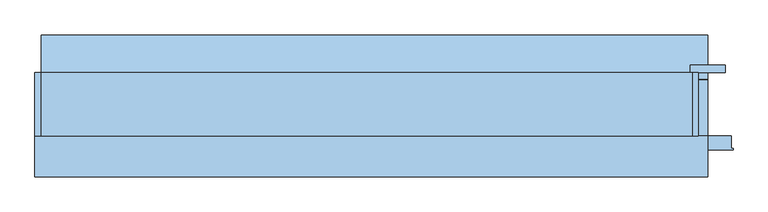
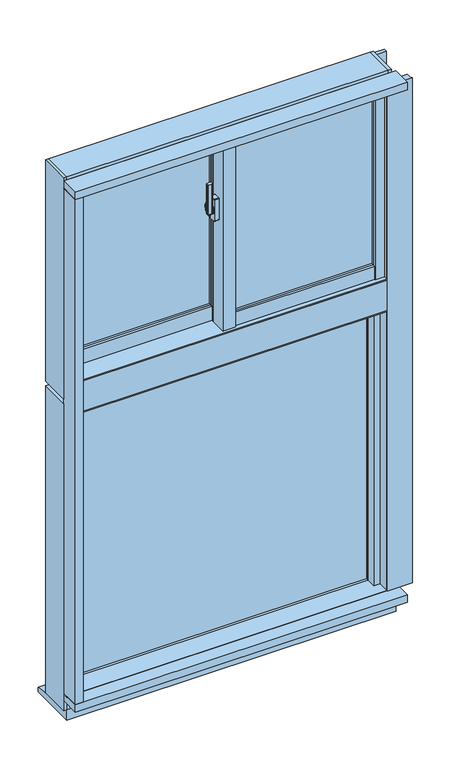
"""IFC4 building model written with IfcOpenShell, lengths in millimetres: window geometry, FNSⅡ100R_非防火_RC枠_段窓_分解無目 : 引違/引違."""

from ifc_helpers import new_model, si_unit, point, frame, frame_2d, origin, place, context, project, spatial, polyline, circle_curve, trimmed, segment, composite_curve, outline, extrude, faceted_brep, source, transform, mapped, element, save
from ifc_brep_helpers import plane_surface, cylinder_surface, revolved_surface, advanced_brep


def window_d3e49d5a(model_context):
    return source(origin(), model_context, "Body", "SolidModel", [
        extrude(outline(composite_curve([segment(polyline([(-39.0, -20.4), (-39.0, -28.6)]), True, "CONTINUOUS"), segment(trimmed(circle_curve(frame_2d((-41.0, -28.6)), 2.0), [point((-39.0, -28.6))], [point((-41.3606557, -30.5672131))], False, "CARTESIAN"), True, "CONTINUOUS"), segment(polyline([(-41.3606557, -30.5672131), (-52.3606557, -28.5505464)]), True, "CONTINUOUS"), segment(trimmed(circle_curve(frame_2d((-52.0, -26.5833333)), 2.0), [point((-52.3606557, -28.5505464))], [point((-54.0, -26.5833333))], False, "CARTESIAN"), True, "CONTINUOUS"), segment(polyline([(-54.0, -26.5833333), (-54.0, -22.4166667)]), True, "CONTINUOUS"), segment(trimmed(circle_curve(frame_2d((-52.0, -22.4166667)), 2.0), [point((-54.0, -22.4166667))], [point((-52.3606557, -20.4494536))], False, "CARTESIAN"), True, "CONTINUOUS"), segment(polyline([(-52.3606557, -20.4494536), (-41.3606557, -18.4327869)]), True, "CONTINUOUS"), segment(trimmed(circle_curve(frame_2d((-41.0, -20.4)), 2.0), [point((-41.3606557, -18.4327869))], [point((-39.0, -20.4))], False, "CARTESIAN"), True, "CONTINUOUS")], self_intersect=False)), frame((0.0, 0.0, 2345.0), z_axis=(0.0, 0.0, 1.0), x_axis=(1.0, 0.0, 0.0)), (0.0, 0.0, 1.0), 100.0),
        advanced_brep(
        [(-37.5, -16.1765715, 2376.7333311), (-45.5, -16.1765715, 2376.7333311), (-45.5, -16.5648001, 2375.2844424), (-39.0, -16.5648001, 2375.2844424), (-39.0, -18.3765334, 2368.5229616), (-37.5, -18.3765334, 2368.5229616), (-39.0, -18.3533883, 2334.3190372), (-45.5, -18.3533883, 2334.3190372), (-45.5, -18.092916, 2332.8418256), (-37.5, -18.092916, 2332.8418256), (-37.5, -19.5689255, 2341.2126915), (-39.0, -19.5689255, 2341.2126915)],
        [
            (0, 1),
            (1, 2),
            (2, 3),
            (3, 4),
            (4, 5),
            (5, 0),
            (6, 7),
            (7, 8),
            (8, 9),
            (9, 10),
            (10, 11),
            (11, 6),
            (0, 9, circle_curve(frame((-37.5, -22.0, 2355.0), z_axis=(-1.0, 0.0, 0.0), x_axis=(0.0, 0.25881904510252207, 0.965925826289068)), 22.5)),
            (8, 1, circle_curve(frame((-45.5, -22.0, 2355.0), z_axis=(1.0, 0.0, 0.0), x_axis=(0.0, 0.25881904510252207, 0.965925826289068)), 22.5)),
            (7, 2, circle_curve(frame((-45.5, -22.0, 2355.0), z_axis=(1.0, 0.0, 0.0), x_axis=(0.0, 0.25881904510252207, 0.965925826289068)), 21.0)),
            (6, 3, circle_curve(frame((-39.0, -22.0, 2355.0), z_axis=(1.0, 0.0, 0.0), x_axis=(0.0, 0.25881904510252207, 0.965925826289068)), 21.0)),
            (11, 4, circle_curve(frame((-39.0, -22.0, 2355.0), z_axis=(-1.0, 0.0, 0.0), x_axis=(0.0, -1.0, 0.0)), 14.0)),
            (5, 10, circle_curve(frame((-37.5, -22.0, 2355.0), z_axis=(1.0, 0.0, 0.0), x_axis=(0.0, -1.0, 0.0)), 14.0)),
        ],
        [
            plane_surface(frame((-43.5470497, -22.0, 2355.0), z_axis=(0.0, -0.965925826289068, 0.25881904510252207), x_axis=(0.0, 0.25881904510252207, 0.965925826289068))),
            plane_surface(frame((-43.5470497, -22.0, 2355.0), z_axis=(0.0, -0.9848077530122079, -0.17364817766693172), x_axis=(0.0, 0.17364817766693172, -0.9848077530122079))),
            cylinder_surface(frame((-43.5470497, -22.0, 2355.0), z_axis=(-1.0, 0.0, 0.0), x_axis=(0.0, 0.25881904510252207, 0.965925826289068)), 22.5),
            plane_surface(frame((-45.5, -22.0, 2355.0), z_axis=(-1.0, 0.0, 0.0), x_axis=(0.0, 0.25881904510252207, 0.965925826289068))),
            revolved_surface(polyline([(-45.5, -16.564800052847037, 2375.2844423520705), (-39.0, -16.564800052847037, 2375.2844423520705)]), (-43.5470497, -22.0, 2355.0), (-1.0, 0.0, 0.0)),
            plane_surface(frame((-39.0, -22.0, 2355.0), z_axis=(-1.0, 0.0, 0.0), x_axis=(0.0, 0.25881904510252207, 0.965925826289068))),
            plane_surface(frame((-37.5, -22.0, 2355.0), z_axis=(1.0, 0.0, 0.0), x_axis=(0.0, 0.25881904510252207, 0.965925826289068))),
            cylinder_surface(frame((-37.5, -22.0, 2355.0), z_axis=(-1.0, 0.0, 0.0), x_axis=(0.0, -1.0, 0.0)), 14.0),
        ],
        [
            (0, [[1, 2, 3, 4, 5, 6]]),
            (1, [[7, 8, 9, 10, 11, 12]]),
            (2, [[-1, 13, -9, 14]]),
            (3, [[-2, -14, -8, 15]]),
            (4, [[-3, -15, -7, 16]]),
            (5, [[-16, -12, 17, -4]]),
            (6, [[-13, -6, 18, -10]]),
            (7, [[-17, -11, -18, -5]]),
        ],
    ),
        extrude(outline(composite_curve([segment(trimmed(circle_curve(frame_2d((-22.0, 2355.0)), 11.5), [point((-10.5, 2355.0))], [point((-33.5, 2355.0))], False, "CARTESIAN"), True, "CONTINUOUS"), segment(trimmed(circle_curve(frame_2d((-22.0, 2355.0)), 11.5), [point((-33.5, 2355.0))], [point((-10.5, 2355.0))], False, "CARTESIAN"), True, "CONTINUOUS")], self_intersect=False)), frame((-37.5, 0.0, 0.0), z_axis=(1.0, 0.0, 0.0), x_axis=(0.0, 1.0, 0.0)), (0.0, 0.0, 1.0), 2.5),
        extrude(outline(composite_curve([segment(polyline([(-31.0, 2392.5), (-13.0, 2392.5)]), True, "CONTINUOUS"), segment(trimmed(circle_curve(frame_2d((-13.0, 2390.5)), 2.0), [point((-13.0, 2392.5))], [point((-11.0, 2390.5))], False, "CARTESIAN"), True, "CONTINUOUS"), segment(polyline([(-11.0, 2390.5), (-11.0, 2319.5)]), True, "CONTINUOUS"), segment(trimmed(circle_curve(frame_2d((-13.0, 2319.5)), 2.0), [point((-11.0, 2319.5))], [point((-13.0, 2317.5))], False, "CARTESIAN"), True, "CONTINUOUS"), segment(polyline([(-13.0, 2317.5), (-31.0, 2317.5)]), True, "CONTINUOUS"), segment(trimmed(circle_curve(frame_2d((-31.0, 2319.5)), 2.0), [point((-31.0, 2317.5))], [point((-33.0, 2319.5))], False, "CARTESIAN"), True, "CONTINUOUS"), segment(polyline([(-33.0, 2319.5), (-33.0, 2390.5)]), True, "CONTINUOUS"), segment(trimmed(circle_curve(frame_2d((-31.0, 2390.5)), 2.0), [point((-33.0, 2390.5))], [point((-31.0, 2392.5))], False, "CARTESIAN"), True, "CONTINUOUS")], self_intersect=False)), frame((-35.0, 0.0, 0.0), z_axis=(1.0, 0.0, 0.0), x_axis=(0.0, 1.0, 0.0)), (0.0, 0.0, 1.0), 15.0),
        extrude(outline(polyline([(20.0, -31.0), (468.0, -31.0), (468.0, -37.0), (20.0, -37.0), (20.0, -31.0)])), frame((0.0, 0.0, 2003.0), z_axis=(0.0, 0.0, 1.0), x_axis=(1.0, 0.0, 0.0)), (0.0, 0.0, 1.0), 567.0),
        extrude(outline(polyline([(20.0, -13.0), (468.0, -13.0), (468.0, -19.0), (20.0, -19.0), (20.0, -13.0)])), frame((0.0, 0.0, 2003.0), z_axis=(0.0, 0.0, 1.0), x_axis=(1.0, 0.0, 0.0)), (0.0, 0.0, 1.0), 567.0),
        extrude(outline(polyline([(-468.0, 27.0), (-20.0, 27.0), (-20.0, 21.0), (-468.0, 21.0), (-468.0, 27.0)])), frame((0.0, 0.0, 2003.0), z_axis=(0.0, 0.0, 1.0), x_axis=(1.0, 0.0, 0.0)), (0.0, 0.0, 1.0), 567.0),
        extrude(outline(polyline([(-468.0, 45.0), (-20.0, 45.0), (-20.0, 39.0), (-468.0, 39.0), (-468.0, 45.0)])), frame((0.0, 0.0, 2003.0), z_axis=(0.0, 0.0, 1.0), x_axis=(1.0, 0.0, 0.0)), (0.0, 0.0, 1.0), 567.0),
        faceted_brep([(-500.0, 24.0, 2610.0), (-489.5, 24.0, 2610.0), (-489.5, 11.0, 2610.0), (-468.0, 11.0, 2610.0), (-468.0, 53.0, 2610.0), (-500.0, 53.0, 2610.0), (-468.0, 24.0, 1915.0), (-500.0, 24.0, 1915.0), (-500.0, 53.0, 1915.0), (-468.0, 53.0, 1915.0), (-468.0, 24.0, 1955.0), (-489.5, 24.0, 1955.0), (-489.5, 11.0, 1955.0), (-468.0, 11.0, 1955.0)], [[[0, 1, 2, 3, 4, 5]], [[6, 7, 8, 9]], [[1, 0, 7, 6, 10, 11]], [[2, 1, 11, 12]], [[3, 2, 12, 13]], [[4, 3, 13, 10, 6, 9]], [[5, 4, 9, 8]], [[7, 0, 5, 8]], [[11, 10, 13, 12]]]),
        faceted_brep([(-20.0, 10.5, 2610.0), (-1.8, 10.5, 2610.0), (-1.8, -1.9, 2610.0), (20.0, -1.9, 2610.0), (20.0, 53.0, 2610.0), (-20.0, 53.0, 2610.0), (-20.0, 53.0, 1915.0), (20.0, 53.0, 1915.0), (20.0, 24.0, 1915.0), (-20.0, 24.0, 1915.0), (-20.0, 10.5, 1955.0), (-1.8, 10.5, 1955.0), (-1.8, -1.9, 1955.0), (20.0, -1.9, 1955.0), (20.0, 24.0, 1955.0), (-20.0, 24.0, 1955.0)], [[[0, 1, 2, 3, 4, 5]], [[6, 7, 8, 9]], [[1, 0, 10, 11]], [[2, 1, 11, 12]], [[3, 2, 12, 13]], [[4, 3, 13, 14, 8, 7]], [[5, 4, 7, 6]], [[0, 5, 6, 9, 15, 10]], [[14, 15, 9, 8]], [[15, 14, 13, 12, 11, 10]]]),
        extrude(outline(polyline([(-20.0, -1.9), (-15.0, -1.9), (-15.0, -47.0), (15.0, -47.0), (15.0, -43.0), (20.0, -43.0), (20.0, -55.0), (-20.0, -55.0), (-20.0, -1.9)])), frame((0.0, 0.0, 1955.0), z_axis=(0.0, 0.0, 1.0), x_axis=(1.0, 0.0, 0.0)), (0.0, 0.0, 1.0), 655.0),
        extrude(outline(polyline([(-15.0, -1.9), (20.0, -1.9), (20.0, -43.0), (15.0, -43.0), (15.0, -47.0), (-15.0, -47.0), (-15.0, -1.9)])), frame((0.0, 0.0, 1955.0), z_axis=(0.0, 0.0, 1.0), x_axis=(1.0, 0.0, 0.0)), (0.0, 0.0, 1.0), 655.0),
        extrude(outline(polyline([(468.0, -55.0), (468.0, -47.0), (489.5, -47.0), (489.5, -34.0), (497.0, -34.0), (497.0, -55.0), (468.0, -55.0)])), frame((0.0, 0.0, 1958.0), z_axis=(0.0, 0.0, 1.0), x_axis=(1.0, 0.0, 0.0)), (0.0, 0.0, 1.0), 652.0),
        extrude(outline(polyline([(468.0, -5.0), (500.0, -5.0), (500.0, -34.0), (489.5, -34.0), (489.5, -47.0), (468.0, -47.0), (468.0, -5.0)])), frame((0.0, 0.0, 1955.0), z_axis=(0.0, 0.0, 1.0), x_axis=(1.0, 0.0, 0.0)), (0.0, 0.0, 1.0), 655.0),
        extrude(outline(polyline([(-1.85, 10.5), (-1.85, 3.0), (-20.0, 3.0), (-20.0, 10.5), (-1.85, 10.5)])), frame((0.0, 0.0, 1955.0), z_axis=(0.0, 0.0, 1.0), x_axis=(1.0, 0.0, 0.0)), (0.0, 0.0, 1.0), 655.0),
        extrude(outline(polyline([(-497.0, 24.0), (-489.5, 24.0), (-489.5, 11.0), (-468.0, 11.0), (-468.0, 3.0), (-497.0, 3.0), (-497.0, 24.0)])), frame((0.0, 0.0, 1955.0), z_axis=(0.0, 0.0, 1.0), x_axis=(1.0, 0.0, 0.0)), (0.0, 0.0, 1.0), 655.0),
        extrude(outline(polyline([(-53.0, 1958.0), (-53.0, 2003.0), (-45.0, 2003.0), (-45.0, 1980.5), (-34.0, 1980.5), (-34.0, 1958.0), (-53.0, 1958.0)])), frame((20.0, 0.0, 0.0), z_axis=(1.0, 0.0, 0.0), x_axis=(0.0, 1.0, 0.0)), (0.0, 0.0, 1.0), 448.0),
        extrude(outline(polyline([(-5.0, 1955.0), (-34.0, 1955.0), (-34.0, 1980.5), (-45.0, 1980.5), (-45.0, 2003.0), (-5.0, 2003.0), (-5.0, 1955.0)])), frame((20.0, 0.0, 0.0), z_axis=(1.0, 0.0, 0.0), x_axis=(0.0, 1.0, 0.0)), (0.0, 0.0, 1.0), 448.0),
        extrude(outline(polyline([(5.0, 2003.0), (13.0, 2003.0), (13.0, 1980.5), (24.0, 1980.5), (24.0, 1955.0), (5.0, 1955.0), (5.0, 2003.0)])), frame((-468.0, 0.0, 0.0), z_axis=(1.0, 0.0, 0.0), x_axis=(0.0, 1.0, 0.0)), (0.0, 0.0, 1.0), 448.0),
        extrude(outline(polyline([(53.0, 1915.0), (24.0, 1915.0), (24.0, 1980.5), (13.0, 1980.5), (13.0, 2003.0), (53.0, 2003.0), (53.0, 1915.0)])), frame((-468.0, 0.0, 0.0), z_axis=(1.0, 0.0, 0.0), x_axis=(0.0, 1.0, 0.0)), (0.0, 0.0, 1.0), 448.0),
        extrude(outline(polyline([(-32.0, 2590.5), (-45.0, 2590.5), (-45.0, 2570.0), (-53.0, 2570.0), (-53.0, 2610.0), (-32.0, 2610.0), (-32.0, 2590.5)])), frame((20.0, 0.0, 0.0), z_axis=(1.0, 0.0, 0.0), x_axis=(0.0, 1.0, 0.0)), (0.0, 0.0, 1.0), 448.0),
        extrude(outline(polyline([(-5.0, 2610.0), (-5.0, 2570.0), (-45.0, 2570.0), (-45.0, 2590.5), (-32.0, 2590.5), (-32.0, 2610.0), (-5.0, 2610.0)])), frame((20.0, 0.0, 0.0), z_axis=(1.0, 0.0, 0.0), x_axis=(0.0, 1.0, 0.0)), (0.0, 0.0, 1.0), 448.0),
        extrude(outline(polyline([(26.0, 2590.5), (13.0, 2590.5), (13.0, 2570.0), (5.0, 2570.0), (5.0, 2610.0), (26.0, 2610.0), (26.0, 2590.5)])), frame((-468.0, 0.0, 0.0), z_axis=(1.0, 0.0, 0.0), x_axis=(0.0, 1.0, 0.0)), (0.0, 0.0, 1.0), 448.0),
        extrude(outline(polyline([(53.0, 2610.0), (53.0, 2570.0), (13.0, 2570.0), (13.0, 2590.5), (26.0, 2590.5), (26.0, 2610.0), (53.0, 2610.0)])), frame((-468.0, 0.0, 0.0), z_axis=(1.0, 0.0, 0.0), x_axis=(0.0, 1.0, 0.0)), (0.0, 0.0, 1.0), 448.0),
        extrude(outline(polyline([(-15.0, 25.3), (-15.0, -23.1), (-500.0, -23.1), (-500.0, 25.3), (-15.0, 25.3)])), frame((0.0, 0.0, 2610.0), z_axis=(0.0, 0.0, 1.0), x_axis=(1.0, 0.0, 0.0)), (0.0, 0.0, 1.0), 25.0),
        faceted_brep([(515.0, 25.3, 2635.0), (515.0, -45.0, 2635.0), (-515.0, -45.0, 2635.0), (-515.0, 25.3, 2635.0), (-15.0, 25.3, 2635.0), (-15.0, -23.1, 2635.0), (500.0, -23.1, 2635.0), (500.0, 25.3, 2635.0), (515.0, 25.3, 2610.0), (500.0, 25.3, 2610.0), (-515.0, 25.3, 2610.0), (-15.0, 25.3, 2610.0), (515.0, 55.0, 2610.0), (500.0, -23.1, 2610.0), (-15.0, -23.1, 2610.0), (-515.0, 55.0, 2610.0), (515.0, 55.0, 2645.0), (-515.0, 55.0, 2645.0), (515.0, -45.0, 2645.0), (-515.0, -45.0, 2645.0)], [[[0, 1, 2, 3, 4, 5, 6, 7]], [[8, 0, 7, 9]], [[3, 10, 11, 4]], [[12, 8, 9, 13, 14, 11, 10, 15]], [[16, 12, 15, 17]], [[18, 16, 17, 19]], [[1, 18, 19, 2]], [[12, 16, 18, 1, 0, 8]], [[15, 10, 3, 2, 19, 17]], [[6, 13, 9, 7]], [[11, 14, 5, 4]], [[13, 6, 5, 14]]]),
        extrude(outline(polyline([(-23.1, 2610.0), (-65.0, 2610.0), (-65.0, 2613.0), (-45.0, 2613.0), (-45.0, 2635.0), (-23.1, 2635.0), (-23.1, 2610.0)])), frame((-500.0, 0.0, 0.0), z_axis=(1.0, 0.0, 0.0), x_axis=(0.0, 1.0, 0.0)), (0.0, 0.0, 1.0), 1000.0),
        faceted_brep([(500.0, -45.0, 2630.0), (515.0, -45.0, 2630.0), (515.0, -40.5, 2630.0), (500.0, -40.5, 2630.0), (500.0, -65.0, 1955.0), (500.0, -40.5, 1955.0), (515.0, -40.5, 1955.0), (515.0, -45.0, 1955.0), (503.0, -45.0, 1955.0), (503.0, -65.0, 1955.0), (503.0, -65.0, 2613.0), (500.0, -65.0, 2613.0), (503.0, -45.0, 2613.0), (500.0, -45.0, 2613.0)], [[[0, 1, 2, 3]], [[4, 5, 6, 7, 8, 9]], [[4, 9, 10, 11]], [[9, 8, 12, 10]], [[0, 13, 12, 8, 7, 1]], [[2, 1, 7, 6]], [[3, 2, 6, 5]], [[5, 4, 11, 13, 0, 3]], [[12, 13, 11, 10]]]),
        faceted_brep([(-515.0, -45.0, 2630.0), (-500.0, -45.0, 2630.0), (-500.0, 21.0, 2630.0), (-515.0, 21.0, 2630.0), (-515.0, -45.0, 1955.0), (-515.0, 21.0, 1955.0), (-500.0, 21.0, 1955.0), (-500.0, -65.0, 1955.0), (-503.0, -65.0, 1955.0), (-503.0, -45.0, 1955.0), (-503.0, -45.0, 2613.0), (-500.0, -45.0, 2613.0), (-503.0, -65.0, 2613.0), (-500.0, -65.0, 2613.0)], [[[0, 1, 2, 3]], [[4, 5, 6, 7, 8, 9]], [[4, 9, 10, 11, 1, 0]], [[9, 8, 12, 10]], [[8, 7, 13, 12]], [[7, 6, 2, 1, 11, 13]], [[3, 2, 6, 5]], [[4, 0, 3, 5]], [[11, 10, 12, 13]]]),
        faceted_brep([(-525.0, 55.0, 2645.0), (-525.0, -45.0, 2645.0), (-515.0, -45.0, 2645.0), (-515.0, 55.0, 2645.0), (-525.0, 55.0, 1895.0), (-515.0, 55.0, 1895.0), (-515.0, -45.0, 1895.0), (-525.0, -45.0, 1895.0), (-515.0, 55.0, 1904.0), (-515.0, 21.0, 1904.0), (-515.0, 21.0, 2610.0), (-515.0, 55.0, 2610.0), (-500.0, 55.0, 2610.0), (-500.0, 55.0, 1904.0), (-500.0, 21.0, 2610.0), (-500.0, 21.0, 1904.0)], [[[0, 1, 2, 3]], [[4, 5, 6, 7]], [[1, 0, 4, 7]], [[2, 1, 7, 6]], [[3, 2, 6, 5, 8, 9, 10, 11]], [[0, 3, 11, 12, 13, 8, 5, 4]], [[12, 11, 10, 14]], [[13, 15, 9, 8]], [[14, 10, 9, 15]], [[12, 14, 15, 13]]]),
        faceted_brep([(515.0, -45.0, 2645.0), (525.0, -45.0, 2645.0), (525.0, 55.0, 2645.0), (515.0, 55.0, 2645.0), (515.0, -45.0, 1895.0), (515.0, 55.0, 1895.0), (525.0, 55.0, 1895.0), (525.0, -45.0, 1895.0), (515.0, -40.5, 2610.0), (500.0, -40.5, 2610.0), (500.0, -40.5, 1904.0), (515.0, -40.5, 1904.0), (500.0, 55.0, 2610.0), (500.0, 55.0, 1904.0), (515.0, 55.0, 2610.0), (515.0, 55.0, 1904.0)], [[[0, 1, 2, 3]], [[4, 5, 6, 7]], [[8, 9, 10, 11]], [[9, 12, 13, 10]], [[9, 8, 14, 12]], [[10, 13, 15, 11]], [[1, 0, 4, 7]], [[2, 1, 7, 6]], [[3, 2, 6, 5, 15, 13, 12, 14]], [[0, 3, 14, 8, 11, 15, 5, 4]]]),
        faceted_brep([(515.0, -45.0, 1939.0), (515.0, 21.0, 1939.0), (-515.0, 21.0, 1939.0), (-515.0, -45.0, 1939.0), (500.0, -17.75, 1939.0), (500.0, -36.2, 1939.0), (-15.0, -36.2, 1939.0), (-15.0, -17.75, 1939.0), (515.0, 21.0, 1904.0), (-515.0, 21.0, 1904.0), (515.0, 55.0, 1904.0), (-515.0, 55.0, 1904.0), (515.0, 55.0, 1895.0), (515.0, -45.0, 1895.0), (-515.0, -45.0, 1895.0), (-515.0, 55.0, 1895.0), (500.0, -36.2, 1955.0), (500.0, -17.75, 1955.0), (-15.0, -36.2, 1955.0), (-15.0, -17.75, 1955.0)], [[[0, 1, 2, 3], [4, 5, 6, 7]], [[1, 8, 9, 2]], [[8, 10, 11, 9]], [[12, 13, 14, 15]], [[12, 10, 8, 1, 0, 13]], [[15, 14, 3, 2, 9, 11]], [[13, 0, 3, 14]], [[10, 12, 15, 11]], [[16, 5, 4, 17]], [[18, 19, 7, 6]], [[5, 16, 18, 6]], [[17, 4, 7, 19]], [[16, 17, 19, 18]]]),
        faceted_brep([(503.0, -65.0, 1955.0), (503.0, -65.0, 1952.0), (503.0, -45.0, 1952.0), (503.0, -45.0, 1939.0), (503.0, -40.5, 1939.0), (503.0, -40.5, 1955.0), (-503.0, -45.0, 1939.0), (-503.0, -45.0, 1952.0), (-503.0, -65.0, 1952.0), (-503.0, -65.0, 1955.0), (-503.0, -36.2, 1955.0), (-503.0, -36.2, 1939.0), (500.0, -40.5, 1955.0), (500.0, -36.2, 1955.0), (-15.0, -36.2, 1955.0), (-15.0, 21.0, 1955.0), (-500.0, 21.0, 1955.0), (-500.0, -36.2, 1955.0), (-500.0, -36.2, 1939.0), (500.0, -36.2, 1939.0), (-15.0, -36.2, 1939.0), (-500.0, 21.0, 1939.0), (-15.0, 21.0, 1939.0), (500.0, -40.5, 1939.0)], [[[0, 1, 2, 3, 4, 5]], [[6, 7, 8, 9, 10, 11]], [[3, 2, 7, 6]], [[2, 1, 8, 7]], [[1, 0, 9, 8]], [[10, 9, 0, 5, 12, 13, 14, 15, 16, 17]], [[11, 10, 17, 18]], [[13, 19, 20, 14]], [[6, 11, 18, 21, 22, 20, 19, 23, 4, 3]], [[12, 23, 19, 13]], [[23, 12, 5, 4]], [[15, 14, 20, 22]], [[16, 21, 18, 17]], [[15, 22, 21, 16]]]),
        extrude(outline(polyline([(-480.0, 20.6), (480.0, 20.6), (480.0, 14.6), (-480.0, 14.6), (-480.0, 20.6)])), frame((0.0, 0.0, 900.0), z_axis=(0.0, 0.0, 1.0), x_axis=(1.0, 0.0, 0.0)), (0.0, 0.0, 1.0), 925.0),
        extrude(outline(polyline([(-480.0, 38.6), (480.0, 38.6), (480.0, 32.6), (-480.0, 32.6), (-480.0, 38.6)])), frame((0.0, 0.0, 900.0), z_axis=(0.0, 0.0, 1.0), x_axis=(1.0, 0.0, 0.0)), (0.0, 0.0, 1.0), 925.0),
        faceted_brep([(-525.0, 55.0, 1880.0), (-525.0, -45.0, 1880.0), (-515.0, -45.0, 1880.0), (-515.0, 55.0, 1880.0), (-525.0, 55.0, 840.0), (-515.0, 55.0, 840.0), (-515.0, -45.0, 840.0), (-525.0, -45.0, 840.0), (-515.0, 55.0, 900.0), (-515.0, 5.0, 900.0), (-515.0, 5.0, 1825.0), (-515.0, 55.0, 1825.0), (-480.0, 55.0, 1825.0), (-480.0, 55.0, 900.0), (-480.0, 5.0, 1825.0), (-480.0, 5.0, 900.0)], [[[0, 1, 2, 3]], [[4, 5, 6, 7]], [[1, 0, 4, 7]], [[2, 1, 7, 6]], [[3, 2, 6, 5, 8, 9, 10, 11]], [[0, 3, 11, 12, 13, 8, 5, 4]], [[12, 11, 10, 14]], [[13, 15, 9, 8]], [[14, 10, 9, 15]], [[12, 14, 15, 13]]]),
        faceted_brep([(525.0, 55.0, 1880.0), (515.0, 55.0, 1880.0), (515.0, -45.0, 1880.0), (525.0, -45.0, 1880.0), (525.0, 55.0, 840.0), (525.0, -45.0, 840.0), (515.0, -45.0, 840.0), (515.0, 55.0, 840.0), (515.0, 55.0, 900.0), (480.0, 55.0, 900.0), (480.0, 55.0, 1825.0), (515.0, 55.0, 1825.0), (515.0, 5.0, 1825.0), (515.0, 5.0, 900.0), (480.0, 5.0, 1825.0), (480.0, 5.0, 900.0)], [[[0, 1, 2, 3]], [[4, 5, 6, 7]], [[1, 0, 4, 7, 8, 9, 10, 11]], [[2, 1, 11, 12, 13, 8, 7, 6]], [[3, 2, 6, 5]], [[0, 3, 5, 4]], [[11, 10, 14, 12]], [[13, 15, 9, 8]], [[14, 10, 9, 15]], [[12, 14, 15, 13]]]),
        extrude(outline(polyline([(500.0, -65.0), (500.0, -26.5), (480.0, -26.5), (480.0, 5.0), (515.0, 5.0), (515.0, -45.0), (503.0, -45.0), (503.0, -65.0), (500.0, -65.0)])), frame((0.0, 0.0, 900.0), z_axis=(0.0, 0.0, 1.0), x_axis=(1.0, 0.0, 0.0)), (0.0, 0.0, 1.0), 945.0),
        extrude(outline(polyline([(-515.0, -45.0), (-515.0, 5.0), (-480.0, 5.0), (-480.0, -26.5), (-500.0, -26.5), (-500.0, -65.0), (-503.0, -65.0), (-503.0, -45.0), (-515.0, -45.0)])), frame((0.0, 0.0, 900.0), z_axis=(0.0, 0.0, 1.0), x_axis=(1.0, 0.0, 0.0)), (0.0, 0.0, 1.0), 945.0),
        extrude(outline(polyline([(-45.0, 884.0), (-45.0, 897.0), (-65.0, 897.0), (-65.0, 900.0), (5.0, 900.0), (5.0, 884.0), (-45.0, 884.0)])), frame((-503.0, 0.0, 0.0), z_axis=(1.0, 0.0, 0.0), x_axis=(0.0, 1.0, 0.0)), (0.0, 0.0, 1.0), 1006.0),
        extrude(outline(polyline([(55.0, 840.0), (-45.0, 840.0), (-45.0, 884.0), (5.0, 884.0), (5.0, 900.0), (55.0, 900.0), (55.0, 870.0), (36.0, 870.0), (36.0, 850.0), (55.0, 850.0), (55.0, 840.0)])), frame((-515.0, 0.0, 0.0), z_axis=(1.0, 0.0, 0.0), x_axis=(0.0, 1.0, 0.0)), (0.0, 0.0, 1.0), 1030.0),
        extrude(outline(polyline([(5.0, 1822.0), (-29.0, 1822.0), (-29.0, 1845.0), (-65.0, 1845.0), (-65.0, 1848.0), (-45.0, 1848.0), (-45.0, 1860.0), (5.0, 1860.0), (5.0, 1822.0)])), frame((-503.0, 0.0, 0.0), z_axis=(1.0, 0.0, 0.0), x_axis=(0.0, 1.0, 0.0)), (0.0, 0.0, 1.0), 1006.0),
        extrude(outline(polyline([(55.0, 1825.0), (5.0, 1825.0), (5.0, 1860.0), (-45.0, 1860.0), (-45.0, 1880.0), (55.0, 1880.0), (55.0, 1825.0)])), frame((-515.0, 0.0, 0.0), z_axis=(1.0, 0.0, 0.0), x_axis=(0.0, 1.0, 0.0)), (0.0, 0.0, 1.0), 1030.0),
        extrude(outline(polyline([(-110.0, 900.0), (-65.0, 900.0), (-65.0, 897.0), (-45.0, 897.0), (-45.0, 875.0), (-110.0, 875.0), (-110.0, 900.0)])), frame((-525.0, 0.0, 0.0), z_axis=(1.0, 0.0, 0.0), x_axis=(0.0, 1.0, 0.0)), (0.0, 0.0, 1.0), 1065.0),
        extrude(outline(polyline([(45.0, 840.0), (55.0, 840.0), (55.0, 828.4285714), (45.0, 830.0), (45.0, 840.0)])), frame((-515.0, 0.0, 0.0), z_axis=(1.0, 0.0, 0.0), x_axis=(0.0, 1.0, 0.0)), (0.0, 0.0, 1.0), 1055.0),
        extrude(outline(polyline([(-45.0, 804.0), (-45.0, 840.0), (45.0, 840.0), (45.0, 830.0), (115.0, 819.0), (115.0, 804.0), (-45.0, 804.0)])), frame((-515.0, 0.0, 0.0), z_axis=(1.0, 0.0, 0.0), x_axis=(0.0, 1.0, 0.0)), (0.0, 0.0, 1.0), 1055.0),
        extrude(outline(polyline([(-503.0, -45.0), (-503.0, -65.0), (-500.0, -65.0), (-500.0, -110.0), (-525.0, -110.0), (-525.0, -45.0), (-503.0, -45.0)])), frame((0.0, 0.0, 900.0), z_axis=(0.0, 0.0, 1.0), x_axis=(1.0, 0.0, 0.0)), (0.0, 0.0, 1.0), 1710.0),
        extrude(outline(polyline([(503.0, -65.0), (503.0, -45.0), (577.0, -45.0), (577.0, -65.0), (580.0, -65.0), (580.0, -67.5), (500.0, -67.5), (500.0, -65.0), (503.0, -65.0)])), frame((0.0, 0.0, 900.0), z_axis=(0.0, 0.0, 1.0), x_axis=(1.0, 0.0, 0.0)), (0.0, 0.0, 1.0), 1710.0),
        extrude(outline(polyline([(567.5, 55.0), (512.5, 55.0), (512.5, 67.0), (567.5, 67.0), (567.5, 55.0)])), frame((0.0, 0.0, 840.0), z_axis=(0.0, 0.0, 1.0), x_axis=(1.0, 0.0, 0.0)), (0.0, 0.0, 1.0), 1790.0),
        extrude(outline(polyline([(-110.0, 2635.0), (-45.0, 2635.0), (-45.0, 2613.0), (-65.0, 2613.0), (-65.0, 2610.0), (-110.0, 2610.0), (-110.0, 2635.0)])), frame((-525.0, 0.0, 0.0), z_axis=(1.0, 0.0, 0.0), x_axis=(0.0, 1.0, 0.0)), (0.0, 0.0, 1.0), 1065.0),
        extrude(outline(polyline([(-500.0, -65.0), (-500.0, -45.0), (500.0, -45.0), (500.0, -65.0), (-500.0, -65.0)])), frame((0.0, 0.0, 1848.0), z_axis=(0.0, 0.0, 1.0), x_axis=(1.0, 0.0, 0.0)), (0.0, 0.0, 1.0), 104.0),
        extrude(outline(polyline([(-515.0, -45.0), (-515.0, 43.0), (540.0, 43.0), (540.0, -45.0), (-515.0, -45.0)])), frame((0.0, 0.0, 1880.0), z_axis=(0.0, 0.0, 1.0), x_axis=(1.0, 0.0, 0.0)), (0.0, 0.0, 1.0), 15.0),
    ])


if __name__ == "__main__":
    model = new_model("IFC4")
    model_context = context("Model", 3, world=origin())
    ifc_project = project(units=[si_unit("LENGTHUNIT", "METRE", prefix="MILLI")], contexts=[model_context])
    site = spatial("IfcSite", under=ifc_project)
    building = spatial("IfcBuilding", under=site)
    placement = place(None, origin())
    window_shape = window_d3e49d5a(model_context)
    element("IfcWindow", 1, ObjectType="FNSⅡ100R_非防火_RC枠_段窓_分解無目 : 引違/引違", at=placement, inside=building, context=model_context, shape_type="MappedRepresentation", body=[
        mapped(window_shape, transform((0.0, 0.0, 0.0), x_axis=(1.0, 0.0, 0.0), y_axis=(0.0, 1.0, 0.0), z_axis=(0.0, 0.0, 1.0))),
    ])
    save(model, "model.ifc")
